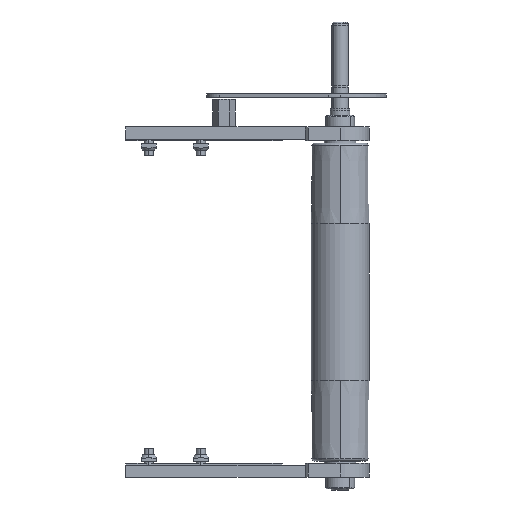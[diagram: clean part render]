
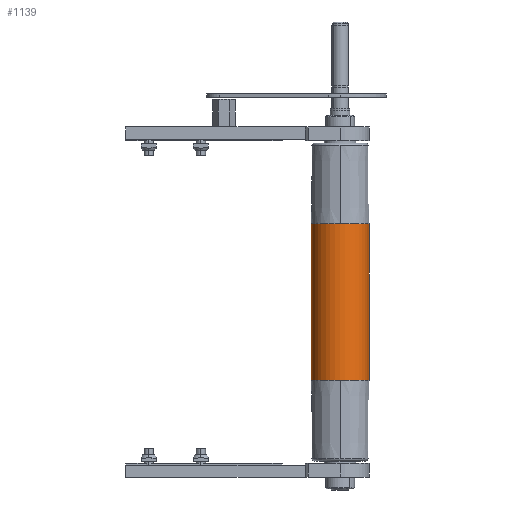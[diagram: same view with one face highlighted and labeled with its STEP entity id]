
A CAD part, front view. The second image highlights one B-rep face of the part: STEP entity #1139.
In plain terms, the highlighted cylindrical face has radius 25 mm (diameter 50 mm), a partial arc.
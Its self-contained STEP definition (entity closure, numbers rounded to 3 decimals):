
#191 = VERTEX_POINT ( 'NONE', #12142 ) ;
#245 = CARTESIAN_POINT ( 'NONE',  ( 135., 0., -25. ) ) ;
#449 = VECTOR ( 'NONE', #14241, 1000. ) ;
#935 = AXIS2_PLACEMENT_3D ( 'NONE', #13018, #8252, #13975 ) ;
#1139 = ADVANCED_FACE ( 'NONE', ( #10421 ), #7327, .T. ) ;
#1174 = LINE ( 'NONE', #245, #449 ) ;
#1197 = DIRECTION ( 'NONE',  ( -1., 0., 0. ) ) ;
#1281 = VERTEX_POINT ( 'NONE', #10319 ) ;
#1311 = DIRECTION ( 'NONE',  ( 0., -1., 0. ) ) ;
#2379 = CARTESIAN_POINT ( 'NONE',  ( 67.5, 0., 25. ) ) ;
#2484 = EDGE_CURVE ( 'NONE', #13911, #9914, #7455, .T. ) ;
#3112 = DIRECTION ( 'NONE',  ( 0., -1., 0. ) ) ;
#3949 = EDGE_CURVE ( 'NONE', #1281, #14281, #8513, .T. ) ;
#4556 = CARTESIAN_POINT ( 'NONE',  ( 67.5, 25., 0. ) ) ;
#4609 = CARTESIAN_POINT ( 'NONE',  ( -67.5, 0., 0. ) ) ;
#4639 = CARTESIAN_POINT ( 'NONE',  ( 135., 0., 25. ) ) ;
#4777 = EDGE_CURVE ( 'NONE', #13911, #191, #5379, .T. ) ;
#4936 = AXIS2_PLACEMENT_3D ( 'NONE', #6653, #14789, #3112 ) ;
#5037 = EDGE_LOOP ( 'NONE', ( #7837, #6739, #13188, #13866, #8316, #13971 ) ) ;
#5379 = LINE ( 'NONE', #4639, #7738 ) ;
#5397 = DIRECTION ( 'NONE',  ( -1., 0., 0. ) ) ;
#5428 = VERTEX_POINT ( 'NONE', #9884 ) ;
#6641 = AXIS2_PLACEMENT_3D ( 'NONE', #10171, #5397, #12502 ) ;
#6653 = CARTESIAN_POINT ( 'NONE',  ( 67.5, 0., 0. ) ) ;
#6739 = ORIENTED_EDGE ( 'NONE', *, *, #13549, .T. ) ;
#7327 = CYLINDRICAL_SURFACE ( 'NONE', #6641, 25. ) ;
#7455 = CIRCLE ( 'NONE', #4936, 25. ) ;
#7738 = VECTOR ( 'NONE', #10368, 1000. ) ;
#7837 = ORIENTED_EDGE ( 'NONE', *, *, #2484, .T. ) ;
#8185 = AXIS2_PLACEMENT_3D ( 'NONE', #4609, #1197, #9266 ) ;
#8252 = DIRECTION ( 'NONE',  ( -1., 0., 0. ) ) ;
#8316 = ORIENTED_EDGE ( 'NONE', *, *, #11229, .F. ) ;
#8502 = CIRCLE ( 'NONE', #12671, 25. ) ;
#8513 = CIRCLE ( 'NONE', #935, 25. ) ;
#9266 = DIRECTION ( 'NONE',  ( 0., -1., 0. ) ) ;
#9884 = CARTESIAN_POINT ( 'NONE',  ( 67.5, 0., -25. ) ) ;
#9914 = VERTEX_POINT ( 'NONE', #4556 ) ;
#10171 = CARTESIAN_POINT ( 'NONE',  ( 135., 0., 0. ) ) ;
#10319 = CARTESIAN_POINT ( 'NONE',  ( -67.5, 25., 0. ) ) ;
#10368 = DIRECTION ( 'NONE',  ( -1., 0., 0. ) ) ;
#10421 = FACE_OUTER_BOUND ( 'NONE', #5037, .T. ) ;
#10447 = DIRECTION ( 'NONE',  ( -1., 0., 0. ) ) ;
#10956 = EDGE_CURVE ( 'NONE', #5428, #14281, #1174, .T. ) ;
#11229 = EDGE_CURVE ( 'NONE', #191, #1281, #13250, .T. ) ;
#12142 = CARTESIAN_POINT ( 'NONE',  ( -67.5, 0., 25. ) ) ;
#12502 = DIRECTION ( 'NONE',  ( 0., 0., 1. ) ) ;
#12534 = CARTESIAN_POINT ( 'NONE',  ( -67.5, 0., -25. ) ) ;
#12671 = AXIS2_PLACEMENT_3D ( 'NONE', #14994, #10447, #1311 ) ;
#13018 = CARTESIAN_POINT ( 'NONE',  ( -67.5, 0., 0. ) ) ;
#13188 = ORIENTED_EDGE ( 'NONE', *, *, #10956, .T. ) ;
#13250 = CIRCLE ( 'NONE', #8185, 25. ) ;
#13549 = EDGE_CURVE ( 'NONE', #9914, #5428, #8502, .T. ) ;
#13866 = ORIENTED_EDGE ( 'NONE', *, *, #3949, .F. ) ;
#13911 = VERTEX_POINT ( 'NONE', #2379 ) ;
#13971 = ORIENTED_EDGE ( 'NONE', *, *, #4777, .F. ) ;
#13975 = DIRECTION ( 'NONE',  ( 0., -1., 0. ) ) ;
#14241 = DIRECTION ( 'NONE',  ( -1., 0., 0. ) ) ;
#14281 = VERTEX_POINT ( 'NONE', #12534 ) ;
#14789 = DIRECTION ( 'NONE',  ( -1., 0., 0. ) ) ;
#14994 = CARTESIAN_POINT ( 'NONE',  ( 67.5, 0., 0. ) ) ;
